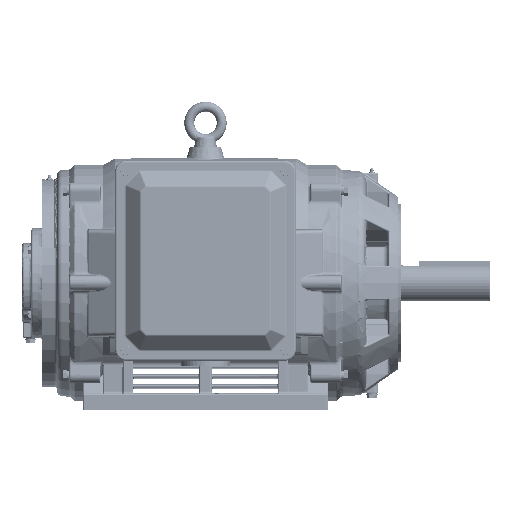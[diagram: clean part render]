
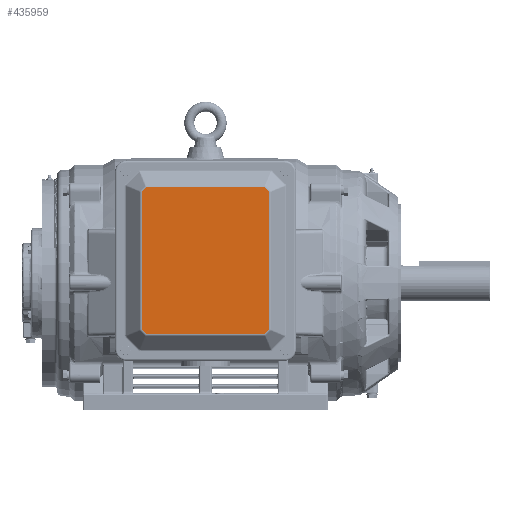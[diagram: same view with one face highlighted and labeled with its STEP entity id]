
A CAD part, top view. The second image highlights one B-rep face of the part: STEP entity #435959.
In plain terms, the highlighted planar face has unit normal (0, 0, 1).
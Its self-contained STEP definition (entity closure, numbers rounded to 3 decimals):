
#9425 = VECTOR ( 'NONE', #112798, 39.37 ) ;
#27622 = VERTEX_POINT ( 'NONE', #187236 ) ;
#29872 = VECTOR ( 'NONE', #162863, 39.37 ) ;
#48248 = CARTESIAN_POINT ( 'NONE',  ( -4.666, 7.517, 18.209 ) ) ;
#53368 = LINE ( 'NONE', #226230, #312810 ) ;
#54740 = DIRECTION ( 'NONE',  ( 1., 0., 0. ) ) ;
#70210 = EDGE_CURVE ( 'NONE', #140256, #221910, #213248, .T. ) ;
#71049 = LINE ( 'NONE', #153473, #240971 ) ;
#82687 = ORIENTED_EDGE ( 'NONE', *, *, #133532, .T. ) ;
#83028 = DIRECTION ( 'NONE',  ( 0., 1., 0. ) ) ;
#94075 = CARTESIAN_POINT ( 'NONE',  ( 4.666, 7.517, 18.209 ) ) ;
#112798 = DIRECTION ( 'NONE',  ( 0., 1., 0. ) ) ;
#123115 = ORIENTED_EDGE ( 'NONE', *, *, #358005, .T. ) ;
#124351 = VECTOR ( 'NONE', #343265, 39.37 ) ;
#130471 = VERTEX_POINT ( 'NONE', #198946 ) ;
#133029 = EDGE_CURVE ( 'NONE', #27622, #431373, #71049, .T. ) ;
#133532 = EDGE_CURVE ( 'NONE', #130471, #27622, #485276, .T. ) ;
#140256 = VERTEX_POINT ( 'NONE', #396808 ) ;
#141084 = CARTESIAN_POINT ( 'NONE',  ( -5.06, 7.122, 18.209 ) ) ;
#147518 = CARTESIAN_POINT ( 'NONE',  ( 5.037, 7.18, 18.209 ) ) ;
#153473 = CARTESIAN_POINT ( 'NONE',  ( -4.642, -4.076, 18.209 ) ) ;
#155198 = ORIENTED_EDGE ( 'NONE', *, *, #167285, .T. ) ;
#162863 = DIRECTION ( 'NONE',  ( 0.707, 0.707, 0. ) ) ;
#167285 = EDGE_CURVE ( 'NONE', #221910, #438120, #394859, .T. ) ;
#168048 = FACE_OUTER_BOUND ( 'NONE', #445712, .T. ) ;
#168558 = DIRECTION ( 'NONE',  ( 0., -1., 0. ) ) ;
#180873 = DIRECTION ( 'NONE',  ( -0.707, 0.707, 0. ) ) ;
#187236 = CARTESIAN_POINT ( 'NONE',  ( -5.037, -3.682, 18.209 ) ) ;
#198946 = CARTESIAN_POINT ( 'NONE',  ( -5.037, 7.146, 18.209 ) ) ;
#211752 = ORIENTED_EDGE ( 'NONE', *, *, #70210, .T. ) ;
#213248 = LINE ( 'NONE', #487482, #29872 ) ;
#217076 = LINE ( 'NONE', #464461, #442754 ) ;
#220764 = CARTESIAN_POINT ( 'NONE',  ( 4.642, 7.541, 18.209 ) ) ;
#220850 = LINE ( 'NONE', #141084, #124351 ) ;
#221910 = VERTEX_POINT ( 'NONE', #499197 ) ;
#226230 = CARTESIAN_POINT ( 'NONE',  ( -4.7, 7.517, 18.209 ) ) ;
#227182 = CARTESIAN_POINT ( 'NONE',  ( -4.666, -4.052, 18.209 ) ) ;
#240971 = VECTOR ( 'NONE', #315788, 39.37 ) ;
#312810 = VECTOR ( 'NONE', #420556, 39.37 ) ;
#314054 = ORIENTED_EDGE ( 'NONE', *, *, #503458, .T. ) ;
#315788 = DIRECTION ( 'NONE',  ( 0.707, -0.707, 0. ) ) ;
#326933 = AXIS2_PLACEMENT_3D ( 'NONE', #455349, #330348, #83028 ) ;
#330348 = DIRECTION ( 'NONE',  ( 0., 0., 1. ) ) ;
#332959 = PLANE ( 'NONE',  #326933 ) ;
#340930 = ORIENTED_EDGE ( 'NONE', *, *, #522816, .T. ) ;
#343265 = DIRECTION ( 'NONE',  ( -0.707, -0.707, 0. ) ) ;
#358005 = EDGE_CURVE ( 'NONE', #431373, #140256, #217076, .T. ) ;
#358606 = VERTEX_POINT ( 'NONE', #48248 ) ;
#360592 = VECTOR ( 'NONE', #168558, 39.37 ) ;
#365536 = CARTESIAN_POINT ( 'NONE',  ( -5.037, -3.715, 18.209 ) ) ;
#372673 = VECTOR ( 'NONE', #180873, 39.37 ) ;
#387558 = ORIENTED_EDGE ( 'NONE', *, *, #500802, .T. ) ;
#394859 = LINE ( 'NONE', #147518, #9425 ) ;
#396808 = CARTESIAN_POINT ( 'NONE',  ( 4.666, -4.052, 18.209 ) ) ;
#414152 = CARTESIAN_POINT ( 'NONE',  ( 5.037, 7.146, 18.209 ) ) ;
#420556 = DIRECTION ( 'NONE',  ( -1., 0., 0. ) ) ;
#431373 = VERTEX_POINT ( 'NONE', #227182 ) ;
#435650 = VERTEX_POINT ( 'NONE', #94075 ) ;
#435959 = ADVANCED_FACE ( 'NONE', ( #168048 ), #332959, .T. ) ;
#438120 = VERTEX_POINT ( 'NONE', #414152 ) ;
#442754 = VECTOR ( 'NONE', #54740, 39.37 ) ;
#445712 = EDGE_LOOP ( 'NONE', ( #211752, #155198, #314054, #340930, #387558, #82687, #498095, #123115 ) ) ;
#455349 = CARTESIAN_POINT ( 'NONE',  ( 0., 1.732, 18.209 ) ) ;
#464461 = CARTESIAN_POINT ( 'NONE',  ( 4.7, -4.052, 18.209 ) ) ;
#465537 = LINE ( 'NONE', #220764, #372673 ) ;
#485276 = LINE ( 'NONE', #365536, #360592 ) ;
#487482 = CARTESIAN_POINT ( 'NONE',  ( 5.06, -3.658, 18.209 ) ) ;
#498095 = ORIENTED_EDGE ( 'NONE', *, *, #133029, .T. ) ;
#499197 = CARTESIAN_POINT ( 'NONE',  ( 5.037, -3.682, 18.209 ) ) ;
#500802 = EDGE_CURVE ( 'NONE', #358606, #130471, #220850, .T. ) ;
#503458 = EDGE_CURVE ( 'NONE', #438120, #435650, #465537, .T. ) ;
#522816 = EDGE_CURVE ( 'NONE', #435650, #358606, #53368, .T. ) ;
